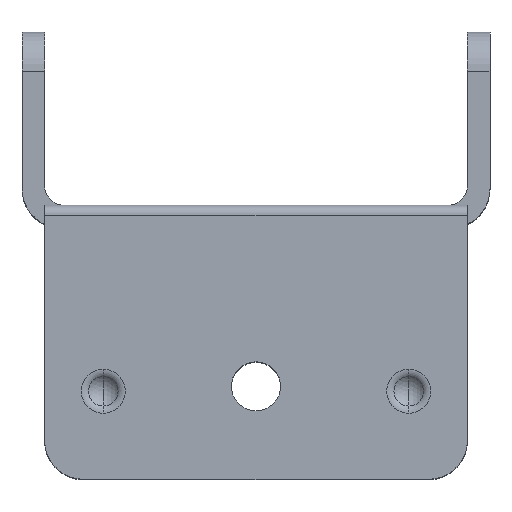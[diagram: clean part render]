
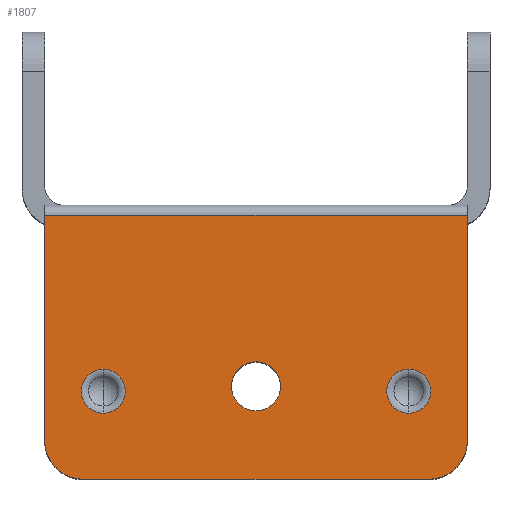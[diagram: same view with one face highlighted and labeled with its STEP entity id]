
A CAD part, top view. The second image highlights one B-rep face of the part: STEP entity #1807.
In plain terms, the highlighted planar face has unit normal (0, 0, 1).
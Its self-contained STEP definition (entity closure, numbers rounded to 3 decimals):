
#4 = CARTESIAN_POINT ( 'NONE',  ( 17.6, -26.3, 48.4 ) ) ;
#30 = AXIS2_PLACEMENT_3D ( 'NONE', #4, #1368, #1386 ) ;
#33 = ORIENTED_EDGE ( 'NONE', *, *, #1797, .T. ) ;
#48 = ORIENTED_EDGE ( 'NONE', *, *, #2027, .T. ) ;
#65 = EDGE_CURVE ( 'NONE', #2094, #1144, #2210, .T. ) ;
#68 = AXIS2_PLACEMENT_3D ( 'NONE', #604, #1957, #1976 ) ;
#70 = ORIENTED_EDGE ( 'NONE', *, *, #247, .F. ) ;
#137 = EDGE_LOOP ( 'NONE', ( #471, #48, #774, #2282, #374, #433 ) ) ;
#155 = DIRECTION ( 'NONE',  ( 0., -1., 0. ) ) ;
#202 = DIRECTION ( 'NONE',  ( 0., 0., -1. ) ) ;
#235 = LINE ( 'NONE', #935, #1248 ) ;
#247 = EDGE_CURVE ( 'NONE', #1144, #2094, #1162, .T. ) ;
#277 = EDGE_LOOP ( 'NONE', ( #70, #2512 ) ) ;
#281 = VERTEX_POINT ( 'NONE', #1822 ) ;
#306 = AXIS2_PLACEMENT_3D ( 'NONE', #2536, #202, #1541 ) ;
#318 = CARTESIAN_POINT ( 'NONE',  ( 15.6, -21.3, 48.4 ) ) ;
#365 = EDGE_CURVE ( 'NONE', #1666, #1836, #1276, .T. ) ;
#374 = ORIENTED_EDGE ( 'NONE', *, *, #566, .F. ) ;
#433 = ORIENTED_EDGE ( 'NONE', *, *, #365, .T. ) ;
#446 = DIRECTION ( 'NONE',  ( 0., -1., 0. ) ) ;
#471 = ORIENTED_EDGE ( 'NONE', *, *, #1699, .T. ) ;
#494 = VERTEX_POINT ( 'NONE', #1117 ) ;
#496 = CARTESIAN_POINT ( 'NONE',  ( 0., -20.8, 48.4 ) ) ;
#505 = CIRCLE ( 'NONE', #2267, 2.25 ) ;
#524 = DIRECTION ( 'NONE',  ( 0., 0., 1. ) ) ;
#546 = DIRECTION ( 'NONE',  ( 0., -1., 0. ) ) ;
#566 = EDGE_CURVE ( 'NONE', #1666, #2371, #235, .T. ) ;
#577 = DIRECTION ( 'NONE',  ( -1., 0., 0. ) ) ;
#604 = CARTESIAN_POINT ( 'NONE',  ( 0., -20.8, 48.4 ) ) ;
#625 = VERTEX_POINT ( 'NONE', #2159 ) ;
#680 = DIRECTION ( 'NONE',  ( 0., 0., 1. ) ) ;
#690 = ORIENTED_EDGE ( 'NONE', *, *, #938, .T. ) ;
#729 = FACE_BOUND ( 'NONE', #277, .T. ) ;
#774 = ORIENTED_EDGE ( 'NONE', *, *, #1847, .F. ) ;
#791 = AXIS2_PLACEMENT_3D ( 'NONE', #318, #524, #155 ) ;
#878 = DIRECTION ( 'NONE',  ( 0., 0., 1. ) ) ;
#896 = AXIS2_PLACEMENT_3D ( 'NONE', #958, #2327, #1152 ) ;
#897 = CIRCLE ( 'NONE', #1945, 2.5 ) ;
#935 = CARTESIAN_POINT ( 'NONE',  ( 21.6, -3.3, 48.4 ) ) ;
#938 = EDGE_CURVE ( 'NONE', #1416, #281, #897, .T. ) ;
#958 = CARTESIAN_POINT ( 'NONE',  ( 21.6, -3.3, 48.4 ) ) ;
#1005 = FACE_BOUND ( 'NONE', #2160, .T. ) ;
#1054 = CARTESIAN_POINT ( 'NONE',  ( -15.6, -19.05, 48.4 ) ) ;
#1103 = DIRECTION ( 'NONE',  ( 0., 0., -1. ) ) ;
#1117 = CARTESIAN_POINT ( 'NONE',  ( -15.6, -23.55, 48.4 ) ) ;
#1129 = CARTESIAN_POINT ( 'NONE',  ( 15.6, -19.05, 48.4 ) ) ;
#1144 = VERTEX_POINT ( 'NONE', #1342 ) ;
#1152 = DIRECTION ( 'NONE',  ( -1., 0., 0. ) ) ;
#1161 = VECTOR ( 'NONE', #1407, 1000. ) ;
#1162 = CIRCLE ( 'NONE', #2196, 2.25 ) ;
#1175 = EDGE_LOOP ( 'NONE', ( #33, #1657 ) ) ;
#1185 = CIRCLE ( 'NONE', #68, 2.5 ) ;
#1213 = CIRCLE ( 'NONE', #1389, 4. ) ;
#1214 = CIRCLE ( 'NONE', #30, 4. ) ;
#1221 = EDGE_CURVE ( 'NONE', #281, #1416, #1185, .T. ) ;
#1248 = VECTOR ( 'NONE', #2124, 1000. ) ;
#1266 = EDGE_CURVE ( 'NONE', #1722, #2371, #1214, .T. ) ;
#1270 = LINE ( 'NONE', #1719, #2289 ) ;
#1276 = LINE ( 'NONE', #1643, #1161 ) ;
#1283 = CARTESIAN_POINT ( 'NONE',  ( -17.6, -26.3, 48.4 ) ) ;
#1299 = CARTESIAN_POINT ( 'NONE',  ( -15.6, -21.3, 48.4 ) ) ;
#1322 = CARTESIAN_POINT ( 'NONE',  ( -21.6, -3.3, 48.4 ) ) ;
#1342 = CARTESIAN_POINT ( 'NONE',  ( 15.6, -23.55, 48.4 ) ) ;
#1362 = PLANE ( 'NONE',  #896 ) ;
#1365 = CIRCLE ( 'NONE', #306, 2.25 ) ;
#1368 = DIRECTION ( 'NONE',  ( 0., 0., 1. ) ) ;
#1386 = DIRECTION ( 'NONE',  ( -1., 0., 0. ) ) ;
#1388 = VERTEX_POINT ( 'NONE', #2397 ) ;
#1389 = AXIS2_PLACEMENT_3D ( 'NONE', #1283, #680, #2060 ) ;
#1394 = VECTOR ( 'NONE', #546, 1000. ) ;
#1407 = DIRECTION ( 'NONE',  ( -1., 0., 0. ) ) ;
#1416 = VERTEX_POINT ( 'NONE', #2035 ) ;
#1507 = DIRECTION ( 'NONE',  ( 0., 0., -1. ) ) ;
#1516 = FACE_BOUND ( 'NONE', #1175, .T. ) ;
#1541 = DIRECTION ( 'NONE',  ( 0., -1., 0. ) ) ;
#1643 = CARTESIAN_POINT ( 'NONE',  ( 21.6, -3.3, 48.4 ) ) ;
#1644 = LINE ( 'NONE', #1322, #1394 ) ;
#1657 = ORIENTED_EDGE ( 'NONE', *, *, #2127, .T. ) ;
#1666 = VERTEX_POINT ( 'NONE', #2531 ) ;
#1699 = EDGE_CURVE ( 'NONE', #1836, #625, #1644, .T. ) ;
#1719 = CARTESIAN_POINT ( 'NONE',  ( 21.6, -30.3, 48.4 ) ) ;
#1722 = VERTEX_POINT ( 'NONE', #1747 ) ;
#1724 = CARTESIAN_POINT ( 'NONE',  ( -21.6, -3.3, 48.4 ) ) ;
#1747 = CARTESIAN_POINT ( 'NONE',  ( 17.6, -30.3, 48.4 ) ) ;
#1788 = ORIENTED_EDGE ( 'NONE', *, *, #1221, .T. ) ;
#1797 = EDGE_CURVE ( 'NONE', #494, #2522, #1365, .T. ) ;
#1807 = ADVANCED_FACE ( 'NONE', ( #1516, #729, #1005, #2530 ), #1362, .F. ) ;
#1822 = CARTESIAN_POINT ( 'NONE',  ( 0., -18.3, 48.4 ) ) ;
#1836 = VERTEX_POINT ( 'NONE', #1724 ) ;
#1847 = EDGE_CURVE ( 'NONE', #1722, #1388, #1270, .T. ) ;
#1945 = AXIS2_PLACEMENT_3D ( 'NONE', #496, #1103, #2095 ) ;
#1957 = DIRECTION ( 'NONE',  ( 0., 0., -1. ) ) ;
#1976 = DIRECTION ( 'NONE',  ( -1., 0., 0. ) ) ;
#2027 = EDGE_CURVE ( 'NONE', #625, #1388, #1213, .T. ) ;
#2035 = CARTESIAN_POINT ( 'NONE',  ( 0., -23.3, 48.4 ) ) ;
#2040 = CARTESIAN_POINT ( 'NONE',  ( 15.6, -21.3, 48.4 ) ) ;
#2060 = DIRECTION ( 'NONE',  ( -1., 0., 0. ) ) ;
#2094 = VERTEX_POINT ( 'NONE', #1129 ) ;
#2095 = DIRECTION ( 'NONE',  ( -1., 0., 0. ) ) ;
#2124 = DIRECTION ( 'NONE',  ( 0., -1., 0. ) ) ;
#2127 = EDGE_CURVE ( 'NONE', #2522, #494, #505, .T. ) ;
#2159 = CARTESIAN_POINT ( 'NONE',  ( -21.6, -26.3, 48.4 ) ) ;
#2160 = EDGE_LOOP ( 'NONE', ( #690, #1788 ) ) ;
#2196 = AXIS2_PLACEMENT_3D ( 'NONE', #2040, #878, #446 ) ;
#2210 = CIRCLE ( 'NONE', #791, 2.25 ) ;
#2267 = AXIS2_PLACEMENT_3D ( 'NONE', #1299, #1507, #2471 ) ;
#2282 = ORIENTED_EDGE ( 'NONE', *, *, #1266, .T. ) ;
#2289 = VECTOR ( 'NONE', #577, 1000. ) ;
#2327 = DIRECTION ( 'NONE',  ( 0., 0., -1. ) ) ;
#2371 = VERTEX_POINT ( 'NONE', #2509 ) ;
#2397 = CARTESIAN_POINT ( 'NONE',  ( -17.6, -30.3, 48.4 ) ) ;
#2471 = DIRECTION ( 'NONE',  ( 0., -1., 0. ) ) ;
#2509 = CARTESIAN_POINT ( 'NONE',  ( 21.6, -26.3, 48.4 ) ) ;
#2512 = ORIENTED_EDGE ( 'NONE', *, *, #65, .F. ) ;
#2522 = VERTEX_POINT ( 'NONE', #1054 ) ;
#2530 = FACE_OUTER_BOUND ( 'NONE', #137, .T. ) ;
#2531 = CARTESIAN_POINT ( 'NONE',  ( 21.6, -3.3, 48.4 ) ) ;
#2536 = CARTESIAN_POINT ( 'NONE',  ( -15.6, -21.3, 48.4 ) ) ;
